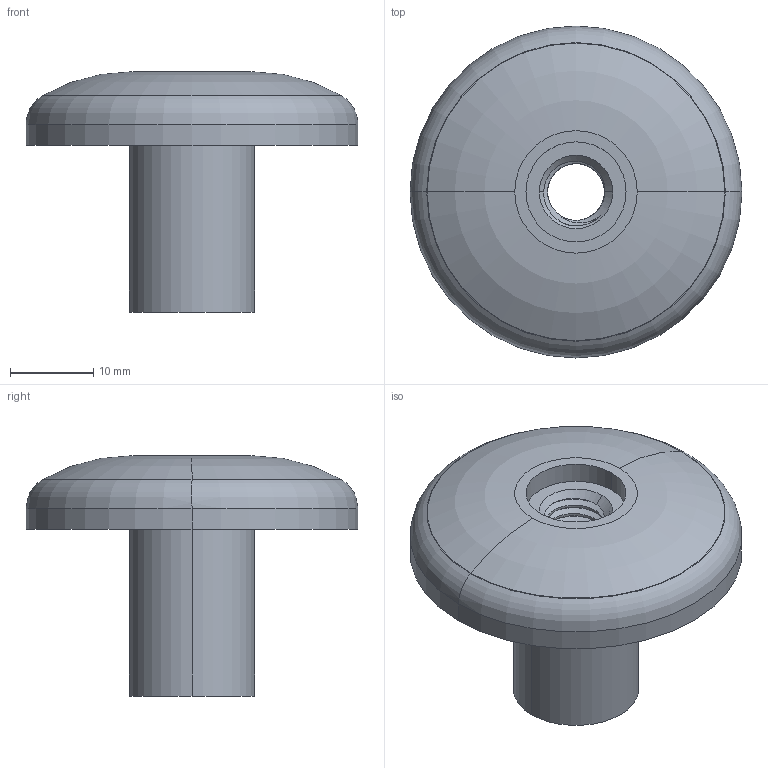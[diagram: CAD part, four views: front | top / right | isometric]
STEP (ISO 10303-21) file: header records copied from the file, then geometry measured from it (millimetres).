
FILE_DESCRIPTION (( 'STEP AP214' ), '1' );
FILE_NAME ('Äåòàëü Êðåïññ ì8 104.STEP', '2026-08-28T05:22:35', ( '' ), ( '' ), 'SwSTEP 2.0', 'SolidWorks 2024', '' );
FILE_SCHEMA (( 'AUTOMOTIVE_DESIGN' ));
Length unit declared in the file: millimetre
Products named in the file (1): Деталь Крепсс м8 104
Bounding box: 39.8 x 39.8 x 28.8 mm (x, y, z)
Volume: 10734.1 mm3; surface area: 4930.4 mm2
Topology: 1 solids, 1 shells, 45 faces, 113 edges, 73 vertices
Faces by surface type: cylinder 26, cone 7, plane 5, torus 4, bspline 3
Entity records: 4695 total; most frequent: CARTESIAN_POINT 3684, ORIENTED_EDGE 226, DIRECTION 184, EDGE_CURVE 113, AXIS2_PLACEMENT_3D 76, VERTEX_POINT 73, EDGE_LOOP 50, FACE_OUTER_BOUND 45
